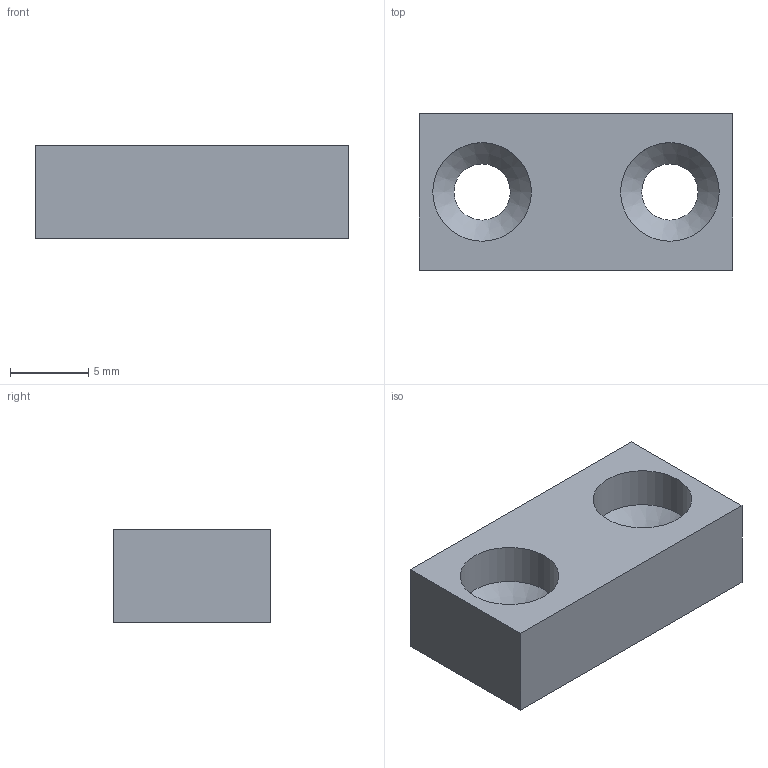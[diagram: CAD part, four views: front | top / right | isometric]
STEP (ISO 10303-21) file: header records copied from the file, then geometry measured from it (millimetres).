
FILE_DESCRIPTION(/* description */ (''),/* implementation_level */ '2;1');
FILE_NAME(/* name */ 'C:\Local Work Area\Progetti\AP\CALIBRI\60.XX PIASTRINE\42.06.stp',/* time_stamp */ '2016-05-06T09:05:48+02:00',/* author */ ('CAD2'),/* organization */ (''),/* preprocessor_version */ 'ST-DEVELOPER v15.2',/* originating_system */ 'Autodesk Inventor 2014',/* authorisation */ '0 mm^3');
FILE_SCHEMA (('CONFIG_CONTROL_DESIGN'));
Length unit declared in the file: millimetre
Products named in the file (1): 42.06
Bounding box: 20 x 10 x 6 mm (x, y, z)
Volume: 940.8 mm3; surface area: 886.8 mm2
Topology: 1 solids, 1 shells, 12 faces, 28 edges, 18 vertices
Faces by surface type: plane 6, cylinder 4, cone 2
Full cylindrical faces by diameter (mm): 3.6 x2, 6.3 x2
Entity records: 328 total; most frequent: DIRECTION 54, CARTESIAN_POINT 49, ORIENTED_EDGE 40, EDGE_LOOP 22, AXIS2_PLACEMENT_3D 21, EDGE_CURVE 20, VERTEX_POINT 16, LINE 12
